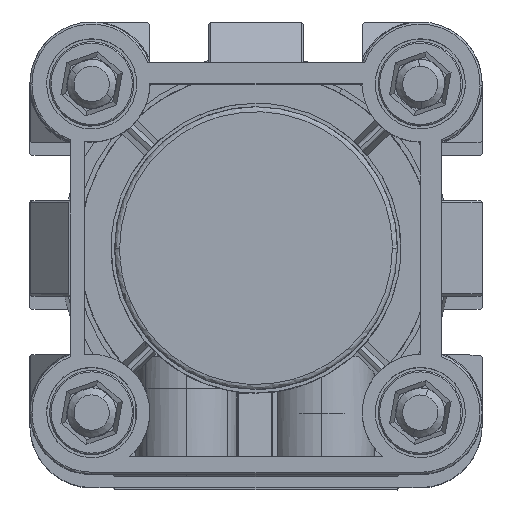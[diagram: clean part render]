
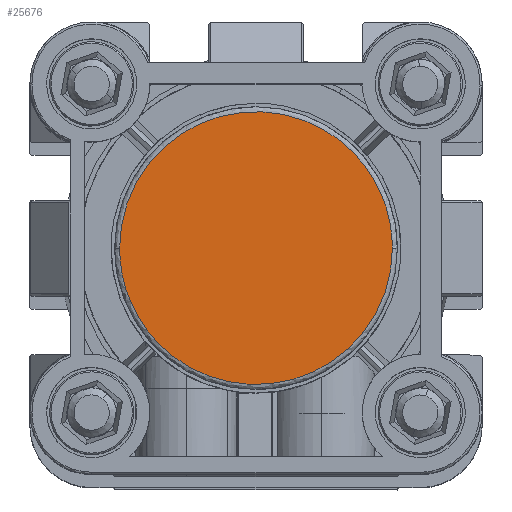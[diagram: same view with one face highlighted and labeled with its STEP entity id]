
A CAD part, top view. The second image highlights one B-rep face of the part: STEP entity #25676.
In plain terms, the highlighted planar face has unit normal (0, 0, 1) as drawn and (0, 0, -1) by its records, which use the part's own axes.
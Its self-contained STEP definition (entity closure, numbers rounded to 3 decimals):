
#756 = CARTESIAN_POINT ( 'NONE',  ( 45.55, -12.35, -4. ) ) ;
#1160 = EDGE_CURVE ( 'NONE', #7883, #26382, #3293, .T. ) ;
#1961 =( BOUNDED_CURVE ( )  B_SPLINE_CURVE ( 3, ( #24760, #4650, #29804, #14787 ),
 .UNSPECIFIED., .F., .F. ) 
 B_SPLINE_CURVE_WITH_KNOTS ( ( 4, 4 ),
 ( 0., 1. ),
 .UNSPECIFIED. ) 
 CURVE ( )  GEOMETRIC_REPRESENTATION_ITEM ( )  RATIONAL_B_SPLINE_CURVE ( ( 0.957, 0.319, 0.319, 0.957 ) ) 
 REPRESENTATION_ITEM ( '' )  );
#2785 = PLANE ( 'NONE',  #10537 ) ;
#3265 = CARTESIAN_POINT ( 'NONE',  ( 6.95, 26.25, -4. ) ) ;
#3293 =( BOUNDED_CURVE ( )  B_SPLINE_CURVE ( 3, ( #3265, #18337, #756, #5817 ),
 .UNSPECIFIED., .F., .T. ) 
 B_SPLINE_CURVE_WITH_KNOTS ( ( 4, 4 ),
 ( 0., 1. ),
 .UNSPECIFIED. ) 
 CURVE ( )  GEOMETRIC_REPRESENTATION_ITEM ( )  RATIONAL_B_SPLINE_CURVE ( ( 0.957, 0.319, 0.319, 0.957 ) ) 
 REPRESENTATION_ITEM ( '' )  );
#4650 = CARTESIAN_POINT ( 'NONE',  ( 45.55, 64.85, -4. ) ) ;
#5817 = CARTESIAN_POINT ( 'NONE',  ( 45.55, 26.25, -4. ) ) ;
#7847 = DIRECTION ( 'NONE',  ( 1., 0., 0. ) ) ;
#7883 = VERTEX_POINT ( 'NONE', #18233 ) ;
#10537 = AXIS2_PLACEMENT_3D ( 'NONE', #20386, #22898, #7847 ) ;
#13675 = CARTESIAN_POINT ( 'NONE',  ( 45.55, 26.25, -4. ) ) ;
#14787 = CARTESIAN_POINT ( 'NONE',  ( 6.95, 26.25, -4. ) ) ;
#15915 = EDGE_CURVE ( 'NONE', #26382, #7883, #1961, .T. ) ;
#17493 = ORIENTED_EDGE ( 'NONE', *, *, #15915, .F. ) ;
#18233 = CARTESIAN_POINT ( 'NONE',  ( 6.95, 26.25, -4. ) ) ;
#18274 = ORIENTED_EDGE ( 'NONE', *, *, #1160, .F. ) ;
#18337 = CARTESIAN_POINT ( 'NONE',  ( 6.95, -12.35, -4. ) ) ;
#20386 = CARTESIAN_POINT ( 'NONE',  ( 6.718, 6.718, -4. ) ) ;
#22898 = DIRECTION ( 'NONE',  ( 0., 0., 1. ) ) ;
#24760 = CARTESIAN_POINT ( 'NONE',  ( 45.55, 26.25, -4. ) ) ;
#25676 = ADVANCED_FACE ( 'NONE', ( #31573 ), #2785, .F. ) ;
#26382 = VERTEX_POINT ( 'NONE', #13675 ) ;
#29804 = CARTESIAN_POINT ( 'NONE',  ( 6.95, 64.85, -4. ) ) ;
#31573 = FACE_OUTER_BOUND ( 'NONE', #32101, .T. ) ;
#32101 = EDGE_LOOP ( 'NONE', ( #18274, #17493 ) ) ;
